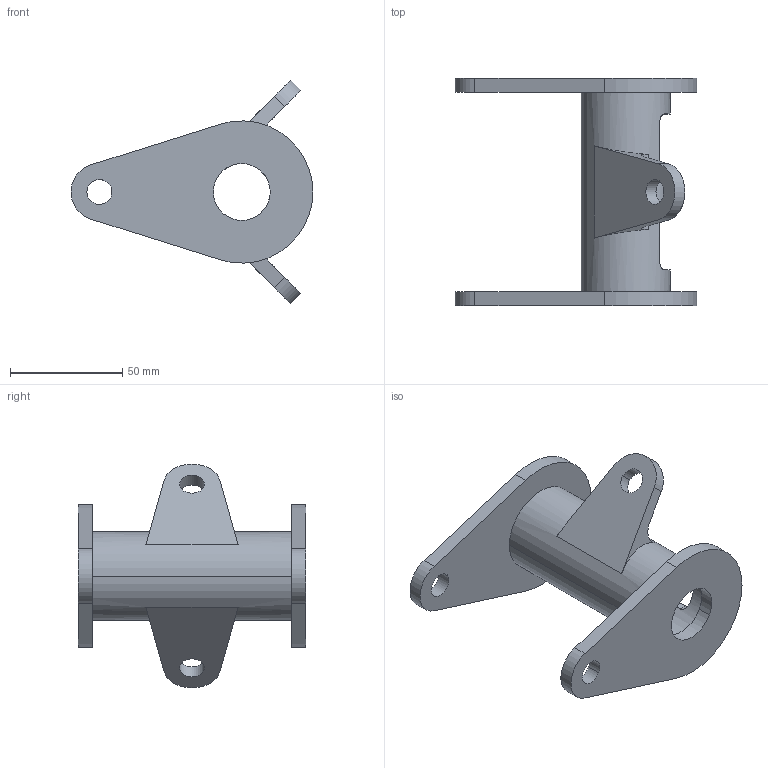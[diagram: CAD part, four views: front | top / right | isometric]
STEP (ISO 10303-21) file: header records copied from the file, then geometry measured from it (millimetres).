
FILE_DESCRIPTION(('CATIA V5 STEP Exchange'),'2;1');
FILE_NAME('C:\Users\Cata\Desktop\2.stp','2023-12-20T18:15:41+00:00',('none'),('none'),'CATIA Version 5 Release 20 GA (IN-10)','CATIA V5 STEP AP203','none');
FILE_SCHEMA(('CONFIG_CONTROL_DESIGN'));
Length unit declared in the file: millimetre
Products named in the file (1): Part2
Bounding box: 107.9 x 101.6 x 99.86 mm (x, y, z)
Volume: 88719.4 mm3; surface area: 44252.9 mm2
Topology: 1 solids, 1 shells, 58 faces, 166 edges, 112 vertices
Faces by surface type: cylinder 32, plane 26
Entity records: 2044 total; most frequent: CARTESIAN_POINT 569, ORIENTED_EDGE 332, DIRECTION 222, EDGE_CURVE 166, VERTEX_POINT 112, AXIS2_PLACEMENT_3D 103, VECTOR 78, LINE 78
